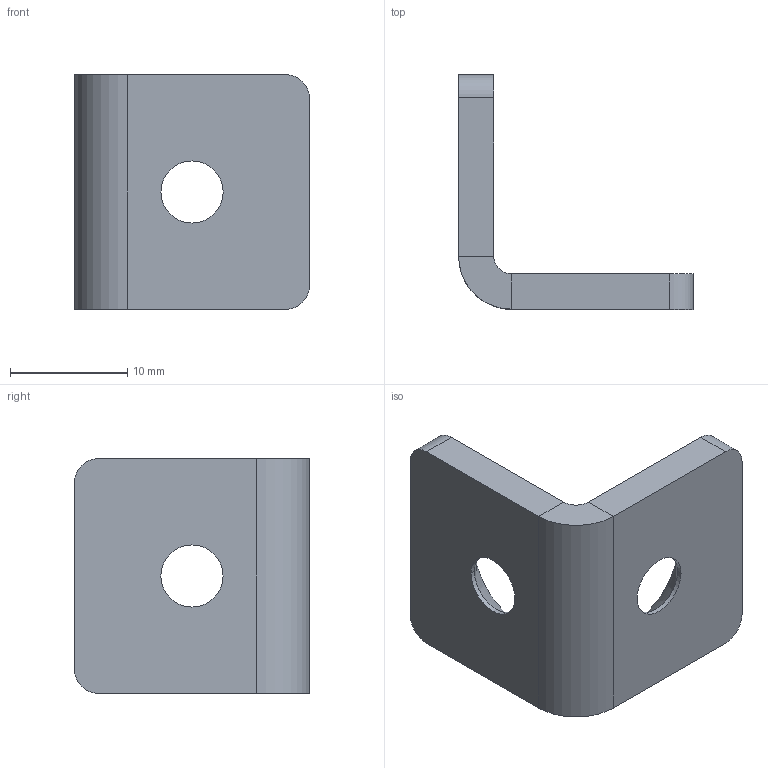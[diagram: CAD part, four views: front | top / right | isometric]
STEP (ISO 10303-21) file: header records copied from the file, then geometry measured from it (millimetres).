
FILE_DESCRIPTION (( 'STEP AP214' ), '1' );
FILE_NAME ('967-20-20-L-1-SR.step', '2023-06-26T09:07:46', ( '' ), ( '' ), 'SwSTEP 2.0', 'SolidWorks 2022', '' );
FILE_SCHEMA (( 'AUTOMOTIVE_DESIGN' ));
Length unit declared in the file: millimetre
Products named in the file (1): 967-20-20-L-1-SR
Bounding box: 20.01 x 20.01 x 20 mm (x, y, z)
Volume: 1851.9 mm3; surface area: 1725 mm2
Topology: 1 solids, 1 shells, 26 faces, 60 edges, 36 vertices
Faces by surface type: plane 12, cylinder 10, cone 4
Entity records: 774 total; most frequent: DIRECTION 138, CARTESIAN_POINT 123, ORIENTED_EDGE 120, EDGE_CURVE 60, AXIS2_PLACEMENT_3D 51, VERTEX_POINT 36, VECTOR 36, LINE 36
